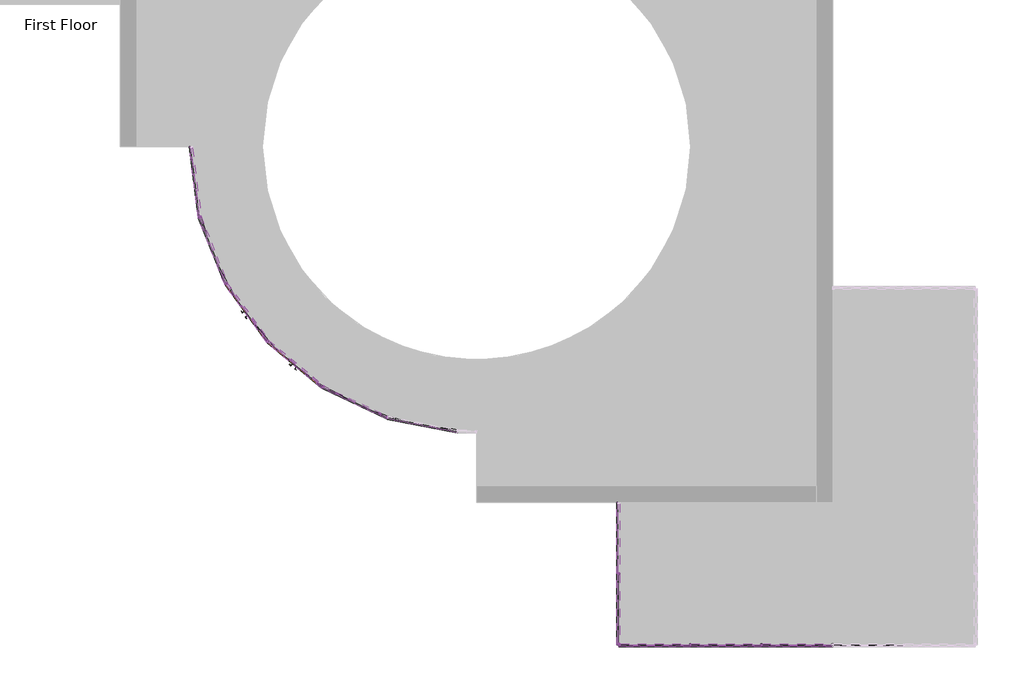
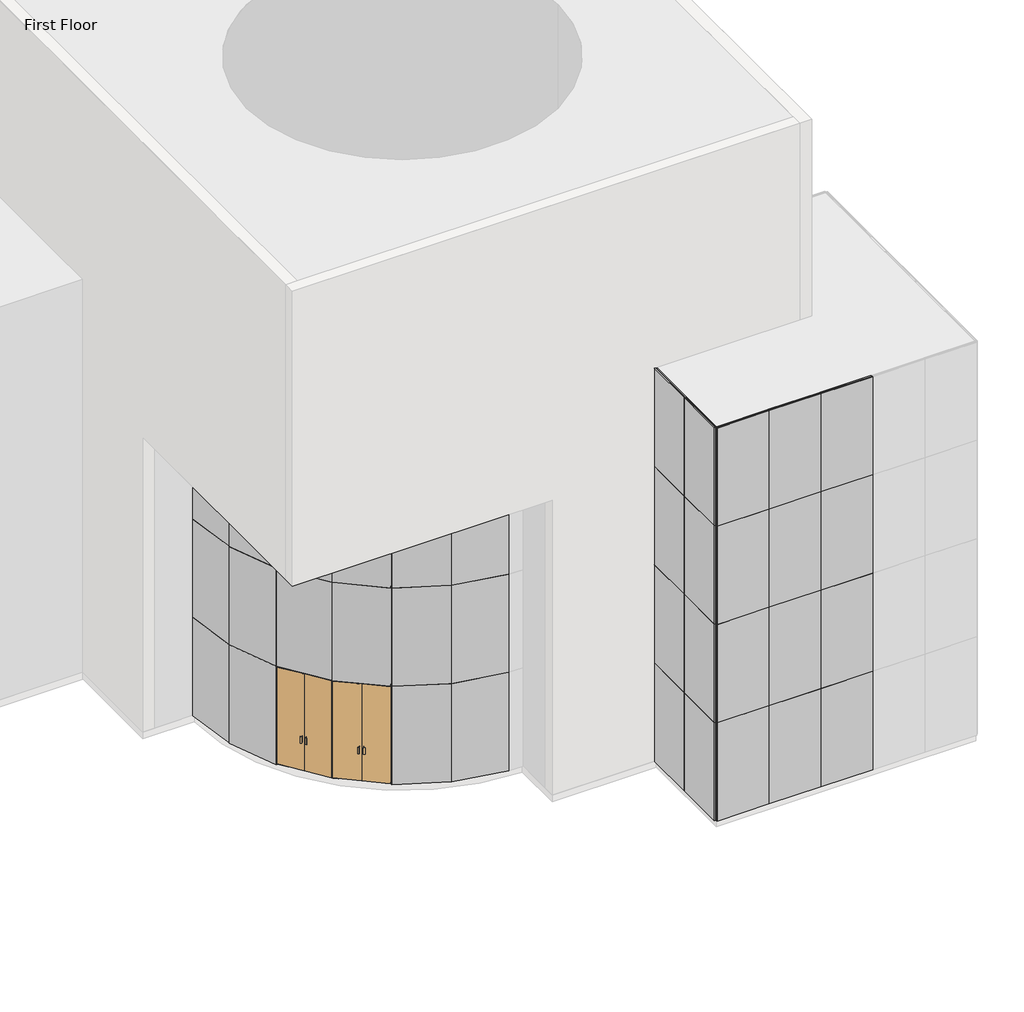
# One storey, part 1 of 4: 82 members, 36 plates, 2 doors.
"""IFC4 building model written with IfcOpenShell, lengths in millimetres."""

from ifc_helpers import new_model, si_unit, origin, place, context, project, spatial, transform, mapped, element, save
from components import m_curtain_wall_dbl_glass_m_curtain_wall_dbl_glass_bace0294, rectangular_mullion_30mm_square_353f8307, rectangular_mullion_30mm_square_7a78963c, rectangular_mullion_30mm_square_eb988697, rectangular_mullion_30mm_square_0160e4a9, rectangular_mullion_30mm_square_0f531e6e, rectangular_mullion_30mm_square_5a53314d, rectangular_mullion_30mm_square_fb89c945, rectangular_mullion_30mm_square_fb254f26, rectangular_mullion_30mm_square_80292d53, rectangular_mullion_30mm_square_ab68954c, system_panel_glazed_8bf869fa

model = new_model("IFC4")

# Units and contexts
model_context = context("Model", 3, world=origin())
ifc_project = project(units=[si_unit("LENGTHUNIT", "METRE", prefix="MILLI")], contexts=[model_context])

# Site, building, storey
site = spatial("IfcSite", under=ifc_project)
building = spatial("IfcBuilding", under=site)
storey = spatial("IfcBuildingStorey", under=building, Name="First Floor", Elevation=0.0)

# Doors
placement = place(None, origin())
m_curtain_wall_dbl_glass_m_curtain_wall_dbl_glass_shape = m_curtain_wall_dbl_glass_m_curtain_wall_dbl_glass_bace0294(model_context)
element("IfcDoor", 1, ObjectType="M_Curtain Wall Dbl Glass : M_Curtain Wall Dbl Glass", at=placement, inside=storey, context=model_context, shape_type="MappedRepresentation", body=[
    mapped(m_curtain_wall_dbl_glass_m_curtain_wall_dbl_glass_shape, transform((-4056.0147962, -3373.9604201, 30.0), x_axis=(0.5864257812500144, -0.8100029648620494, 0.0), y_axis=(0.8100029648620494, 0.5864257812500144, 0.0), z_axis=(0.0, 0.0, 1.0))),
])
element("IfcDoor", 2, ObjectType="M_Curtain Wall Dbl Glass : M_Curtain Wall Dbl Glass", at=placement, inside=storey, context=model_context, shape_type="MappedRepresentation", body=[
    mapped(m_curtain_wall_dbl_glass_m_curtain_wall_dbl_glass_shape, transform((-3023.1708631, -4478.2788343, 30.0), x_axis=(0.7690124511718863, -0.639233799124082, 0.0), y_axis=(0.639233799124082, 0.7690124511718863, 0.0), z_axis=(0.0, 0.0, 1.0))),
])

# Members
rectangular_mullion_30mm_square_shape = rectangular_mullion_30mm_square_353f8307(model_context)
element("IfcMember", 3, ObjectType="Rectangular Mullion : 30mm Square", at=placement, inside=storey, context=model_context, shape_type="MappedRepresentation", body=[
    mapped(rectangular_mullion_30mm_square_shape, transform((3891.0350085, -10465.147342, 12192.0), x_axis=(0.0, 0.0, 1.0), y_axis=(-1.0, 0.0, 0.0), z_axis=(0.0, -1.0, 0.0))),
])
element("IfcMember", 4, ObjectType="Rectangular Mullion : 30mm Square", at=placement, inside=storey, context=model_context, shape_type="MappedRepresentation", body=[
    mapped(rectangular_mullion_30mm_square_shape, transform((3891.0350085, -8956.147342, 12192.0), x_axis=(0.0, 0.0, 1.0), y_axis=(-1.0, 0.0, 0.0), z_axis=(0.0, -1.0, 0.0))),
])
element("IfcMember", 5, ObjectType="Rectangular Mullion : 30mm Square", at=placement, inside=storey, context=model_context, shape_type="MappedRepresentation", body=[
    mapped(rectangular_mullion_30mm_square_shape, transform((5400.0350085, -10495.147342, 12192.0), x_axis=(0.0, 0.0, 1.0), y_axis=(0.0, -1.0, 0.0), z_axis=(1.0, 0.0, 0.0))),
])
element("IfcMember", 6, ObjectType="Rectangular Mullion : 30mm Square", at=placement, inside=storey, context=model_context, shape_type="MappedRepresentation", body=[
    mapped(rectangular_mullion_30mm_square_shape, transform((3891.0350085, -8986.147342, 0.0), x_axis=(0.0, 0.0, -1.0), y_axis=(-1.0, 0.0, 0.0), z_axis=(0.0, 1.0, 0.0))),
])
element("IfcMember", 7, ObjectType="Rectangular Mullion : 30mm Square", at=placement, inside=storey, context=model_context, shape_type="MappedRepresentation", body=[
    mapped(rectangular_mullion_30mm_square_shape, transform((3921.0350085, -10495.147342, 0.0), x_axis=(0.0, 0.0, -1.0), y_axis=(0.0, -1.0, 0.0), z_axis=(-1.0, 0.0, 0.0))),
])
rectangular_mullion_30mm_square_2_shape = rectangular_mullion_30mm_square_7a78963c(model_context)
element("IfcMember", 8, ObjectType="Rectangular Mullion : 30mm Square", at=placement, inside=storey, context=model_context, shape_type="MappedRepresentation", body=[
    mapped(rectangular_mullion_30mm_square_2_shape, transform((-5062.4649915, -1339.1942163, 0.0), x_axis=(0.24803918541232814, -0.9687499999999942, 0.0), y_axis=(-0.9687499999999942, -0.24803918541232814, 0.0), z_axis=(0.0, 0.0, -1.0))),
])
element("IfcMember", 9, ObjectType="Rectangular Mullion : 30mm Square", at=placement, inside=storey, context=model_context, shape_type="MappedRepresentation", body=[
    mapped(rectangular_mullion_30mm_square_2_shape, transform((-4502.8712415, -2756.7381609, 0.0), x_axis=(0.4805759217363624, -0.8769531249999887, 0.0), y_axis=(-0.8769531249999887, -0.4805759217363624, 0.0), z_axis=(0.0, 0.0, -1.0))),
])
element("IfcMember", 10, ObjectType="Rectangular Mullion : 30mm Square", at=placement, inside=storey, context=model_context, shape_type="MappedRepresentation", body=[
    mapped(rectangular_mullion_30mm_square_2_shape, transform((-3609.1583509, -3991.1826794, 0.0), x_axis=(0.6830766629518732, -0.7303466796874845, 0.0), y_axis=(-0.7303466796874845, -0.6830766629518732, 0.0), z_axis=(0.0, 0.0, -1.0))),
])
element("IfcMember", 11, ObjectType="Rectangular Mullion : 30mm Square", at=placement, inside=storey, context=model_context, shape_type="MappedRepresentation", body=[
    mapped(rectangular_mullion_30mm_square_2_shape, transform((-2437.1833753, -4965.3749892, 0.0), x_axis=(0.8428851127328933, -0.5380935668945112, 0.0), y_axis=(-0.5380935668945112, -0.8428851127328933, 0.0), z_axis=(0.0, 0.0, -1.0))),
])
element("IfcMember", 12, ObjectType="Rectangular Mullion : 30mm Square", at=placement, inside=storey, context=model_context, shape_type="MappedRepresentation", body=[
    mapped(rectangular_mullion_30mm_square_2_shape, transform((-1060.1947507, -5618.4280711, 0.0), x_axis=(0.9500132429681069, -0.31220960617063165, 0.0), y_axis=(-0.31220960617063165, -0.9500132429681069, 0.0), z_axis=(0.0, 0.0, -1.0))),
])
element("IfcMember", 13, ObjectType="Rectangular Mullion : 30mm Square", at=placement, inside=storey, context=model_context, shape_type="MappedRepresentation", body=[
    mapped(rectangular_mullion_30mm_square_2_shape, transform((3891.0350085, -8971.147342, 0.0), x_axis=(0.0, -1.0, 0.0), y_axis=(-1.0, 0.0, 0.0), z_axis=(0.0, 0.0, -1.0))),
])
element("IfcMember", 14, ObjectType="Rectangular Mullion : 30mm Square", at=placement, inside=storey, context=model_context, shape_type="MappedRepresentation", body=[
    mapped(rectangular_mullion_30mm_square_2_shape, transform((5415.0350085, -10495.147342, 0.0), x_axis=(1.0, 0.0, 0.0), y_axis=(0.0, -1.0, 0.0), z_axis=(0.0, 0.0, -1.0))),
])
element("IfcMember", 15, ObjectType="Rectangular Mullion : 30mm Square", at=placement, inside=storey, context=model_context, shape_type="MappedRepresentation", body=[
    mapped(rectangular_mullion_30mm_square_2_shape, transform((6939.0350085, -10495.147342, 0.0), x_axis=(1.0, 0.0, 0.0), y_axis=(0.0, -1.0, 0.0), z_axis=(0.0, 0.0, -1.0))),
])
element("IfcMember", 16, ObjectType="Rectangular Mullion : 30mm Square", at=placement, inside=storey, context=model_context, shape_type="MappedRepresentation", body=[
    mapped(rectangular_mullion_30mm_square_2_shape, transform((8463.0350085, -10495.147342, 0.0), x_axis=(1.0, 0.0, 0.0), y_axis=(0.0, -1.0, 0.0), z_axis=(0.0, 0.0, -1.0))),
])
rectangular_mullion_30mm_square_3_shape = rectangular_mullion_30mm_square_eb988697(model_context)
element("IfcMember", 17, ObjectType="Rectangular Mullion : 30mm Square", at=placement, inside=storey, context=model_context, shape_type="MappedRepresentation", body=[
    mapped(rectangular_mullion_30mm_square_3_shape, transform((3891.0350085, -8956.147342, 3048.0), x_axis=(0.0, 0.0, 1.0), y_axis=(-1.0, 0.0, 0.0), z_axis=(0.0, -1.0, 0.0))),
])
element("IfcMember", 18, ObjectType="Rectangular Mullion : 30mm Square", at=placement, inside=storey, context=model_context, shape_type="MappedRepresentation", body=[
    mapped(rectangular_mullion_30mm_square_3_shape, transform((3891.0350085, -10465.147342, 3048.0), x_axis=(0.0, 0.0, 1.0), y_axis=(-1.0, 0.0, 0.0), z_axis=(0.0, -1.0, 0.0))),
])
element("IfcMember", 19, ObjectType="Rectangular Mullion : 30mm Square", at=placement, inside=storey, context=model_context, shape_type="MappedRepresentation", body=[
    mapped(rectangular_mullion_30mm_square_3_shape, transform((3891.0350085, -8956.147342, 6096.0), x_axis=(0.0, 0.0, 1.0), y_axis=(-1.0, 0.0, 0.0), z_axis=(0.0, -1.0, 0.0))),
])
element("IfcMember", 20, ObjectType="Rectangular Mullion : 30mm Square", at=placement, inside=storey, context=model_context, shape_type="MappedRepresentation", body=[
    mapped(rectangular_mullion_30mm_square_3_shape, transform((3891.0350085, -10465.147342, 6096.0), x_axis=(0.0, 0.0, 1.0), y_axis=(-1.0, 0.0, 0.0), z_axis=(0.0, -1.0, 0.0))),
])
element("IfcMember", 21, ObjectType="Rectangular Mullion : 30mm Square", at=placement, inside=storey, context=model_context, shape_type="MappedRepresentation", body=[
    mapped(rectangular_mullion_30mm_square_3_shape, transform((3891.0350085, -8956.147342, 9144.0), x_axis=(0.0, 0.0, 1.0), y_axis=(-1.0, 0.0, 0.0), z_axis=(0.0, -1.0, 0.0))),
])
element("IfcMember", 22, ObjectType="Rectangular Mullion : 30mm Square", at=placement, inside=storey, context=model_context, shape_type="MappedRepresentation", body=[
    mapped(rectangular_mullion_30mm_square_3_shape, transform((3891.0350085, -10465.147342, 9144.0), x_axis=(0.0, 0.0, 1.0), y_axis=(-1.0, 0.0, 0.0), z_axis=(0.0, -1.0, 0.0))),
])
element("IfcMember", 23, ObjectType="Rectangular Mullion : 30mm Square", at=placement, inside=storey, context=model_context, shape_type="MappedRepresentation", body=[
    mapped(rectangular_mullion_30mm_square_3_shape, transform((5400.0350085, -10495.147342, 3048.0), x_axis=(0.0, 0.0, 1.0), y_axis=(0.0, -1.0, 0.0), z_axis=(1.0, 0.0, 0.0))),
])
element("IfcMember", 24, ObjectType="Rectangular Mullion : 30mm Square", at=placement, inside=storey, context=model_context, shape_type="MappedRepresentation", body=[
    mapped(rectangular_mullion_30mm_square_3_shape, transform((5400.0350085, -10495.147342, 6096.0), x_axis=(0.0, 0.0, 1.0), y_axis=(0.0, -1.0, 0.0), z_axis=(1.0, 0.0, 0.0))),
])
element("IfcMember", 25, ObjectType="Rectangular Mullion : 30mm Square", at=placement, inside=storey, context=model_context, shape_type="MappedRepresentation", body=[
    mapped(rectangular_mullion_30mm_square_3_shape, transform((5400.0350085, -10495.147342, 9144.0), x_axis=(0.0, 0.0, 1.0), y_axis=(0.0, -1.0, 0.0), z_axis=(1.0, 0.0, 0.0))),
])
rectangular_mullion_30mm_square_4_shape = rectangular_mullion_30mm_square_0160e4a9(model_context)
element("IfcMember", 26, ObjectType="Rectangular Mullion : 30mm Square", at=placement, inside=storey, context=model_context, shape_type="MappedRepresentation", body=[
    mapped(rectangular_mullion_30mm_square_4_shape, transform((6924.0350085, -10495.147342, 3048.0), x_axis=(0.0, 0.0, 1.0), y_axis=(0.0, -1.0, 0.0), z_axis=(1.0, 0.0, 0.0))),
])
element("IfcMember", 27, ObjectType="Rectangular Mullion : 30mm Square", at=placement, inside=storey, context=model_context, shape_type="MappedRepresentation", body=[
    mapped(rectangular_mullion_30mm_square_4_shape, transform((8448.0350085, -10495.147342, 3048.0), x_axis=(0.0, 0.0, 1.0), y_axis=(0.0, -1.0, 0.0), z_axis=(1.0, 0.0, 0.0))),
])
element("IfcMember", 28, ObjectType="Rectangular Mullion : 30mm Square", at=placement, inside=storey, context=model_context, shape_type="MappedRepresentation", body=[
    mapped(rectangular_mullion_30mm_square_4_shape, transform((6924.0350085, -10495.147342, 6096.0), x_axis=(0.0, 0.0, 1.0), y_axis=(0.0, -1.0, 0.0), z_axis=(1.0, 0.0, 0.0))),
])
element("IfcMember", 29, ObjectType="Rectangular Mullion : 30mm Square", at=placement, inside=storey, context=model_context, shape_type="MappedRepresentation", body=[
    mapped(rectangular_mullion_30mm_square_4_shape, transform((8448.0350085, -10495.147342, 6096.0), x_axis=(0.0, 0.0, 1.0), y_axis=(0.0, -1.0, 0.0), z_axis=(1.0, 0.0, 0.0))),
])
element("IfcMember", 30, ObjectType="Rectangular Mullion : 30mm Square", at=placement, inside=storey, context=model_context, shape_type="MappedRepresentation", body=[
    mapped(rectangular_mullion_30mm_square_4_shape, transform((6924.0350085, -10495.147342, 9144.0), x_axis=(0.0, 0.0, 1.0), y_axis=(0.0, -1.0, 0.0), z_axis=(1.0, 0.0, 0.0))),
])
element("IfcMember", 31, ObjectType="Rectangular Mullion : 30mm Square", at=placement, inside=storey, context=model_context, shape_type="MappedRepresentation", body=[
    mapped(rectangular_mullion_30mm_square_4_shape, transform((8448.0350085, -10495.147342, 9144.0), x_axis=(0.0, 0.0, 1.0), y_axis=(0.0, -1.0, 0.0), z_axis=(1.0, 0.0, 0.0))),
])
rectangular_mullion_30mm_square_5_shape = rectangular_mullion_30mm_square_0f531e6e(model_context)
element("IfcMember", 32, ObjectType="Rectangular Mullion : 30mm Square", at=placement, inside=storey, context=model_context, shape_type="MappedRepresentation", body=[
    mapped(rectangular_mullion_30mm_square_5_shape, transform((5430.0350085, -10495.147342, 0.0), x_axis=(0.0, 0.0, -1.0), y_axis=(0.0, -1.0, 0.0), z_axis=(-1.0, 0.0, 0.0))),
])
element("IfcMember", 33, ObjectType="Rectangular Mullion : 30mm Square", at=placement, inside=storey, context=model_context, shape_type="MappedRepresentation", body=[
    mapped(rectangular_mullion_30mm_square_5_shape, transform((6954.0350085, -10495.147342, 0.0), x_axis=(0.0, 0.0, -1.0), y_axis=(0.0, -1.0, 0.0), z_axis=(-1.0, 0.0, 0.0))),
])
element("IfcMember", 34, ObjectType="Rectangular Mullion : 30mm Square", at=placement, inside=storey, context=model_context, shape_type="MappedRepresentation", body=[
    mapped(rectangular_mullion_30mm_square_5_shape, transform((8478.0350085, -10495.147342, 0.0), x_axis=(0.0, 0.0, -1.0), y_axis=(0.0, -1.0, 0.0), z_axis=(-1.0, 0.0, 0.0))),
])
element("IfcMember", 35, ObjectType="Rectangular Mullion : 30mm Square", at=placement, inside=storey, context=model_context, shape_type="MappedRepresentation", body=[
    mapped(rectangular_mullion_30mm_square_5_shape, transform((6924.0350085, -10495.147342, 12192.0), x_axis=(0.0, 0.0, 1.0), y_axis=(0.0, -1.0, 0.0), z_axis=(1.0, 0.0, 0.0))),
])
element("IfcMember", 36, ObjectType="Rectangular Mullion : 30mm Square", at=placement, inside=storey, context=model_context, shape_type="MappedRepresentation", body=[
    mapped(rectangular_mullion_30mm_square_5_shape, transform((8448.0350085, -10495.147342, 12192.0), x_axis=(0.0, 0.0, 1.0), y_axis=(0.0, -1.0, 0.0), z_axis=(1.0, 0.0, 0.0))),
])
element("IfcMember", 37, ObjectType="Rectangular Mullion : 30mm Square", at=placement, inside=storey, context=model_context, shape_type="MappedRepresentation", body=[
    mapped(rectangular_mullion_30mm_square_2_shape, transform((-5062.4649915, -1339.1942163, 3048.0), x_axis=(0.24803918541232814, -0.9687499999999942, 0.0), y_axis=(-0.9687499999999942, -0.24803918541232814, 0.0), z_axis=(0.0, 0.0, -1.0))),
])
element("IfcMember", 38, ObjectType="Rectangular Mullion : 30mm Square", at=placement, inside=storey, context=model_context, shape_type="MappedRepresentation", body=[
    mapped(rectangular_mullion_30mm_square_2_shape, transform((-4502.8712415, -2756.7381609, 3048.0), x_axis=(0.48057592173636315, -0.8769531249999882, 0.0), y_axis=(-0.8769531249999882, -0.48057592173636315, 0.0), z_axis=(0.0, 0.0, -1.0))),
])
element("IfcMember", 39, ObjectType="Rectangular Mullion : 30mm Square", at=placement, inside=storey, context=model_context, shape_type="MappedRepresentation", body=[
    mapped(rectangular_mullion_30mm_square_2_shape, transform((-3609.1583509, -3991.1826794, 3048.0), x_axis=(0.6830766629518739, -0.7303466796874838, 0.0), y_axis=(-0.7303466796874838, -0.6830766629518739, 0.0), z_axis=(0.0, 0.0, -1.0))),
])
element("IfcMember", 40, ObjectType="Rectangular Mullion : 30mm Square", at=placement, inside=storey, context=model_context, shape_type="MappedRepresentation", body=[
    mapped(rectangular_mullion_30mm_square_2_shape, transform((-2437.1833753, -4965.3749892, 3048.0), x_axis=(0.8428851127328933, -0.5380935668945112, 0.0), y_axis=(-0.5380935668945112, -0.8428851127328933, 0.0), z_axis=(0.0, 0.0, -1.0))),
])
element("IfcMember", 41, ObjectType="Rectangular Mullion : 30mm Square", at=placement, inside=storey, context=model_context, shape_type="MappedRepresentation", body=[
    mapped(rectangular_mullion_30mm_square_2_shape, transform((-1060.1947507, -5618.4280711, 3048.0), x_axis=(0.9500132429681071, -0.31220960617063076, 0.0), y_axis=(-0.31220960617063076, -0.9500132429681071, 0.0), z_axis=(0.0, 0.0, -1.0))),
])
element("IfcMember", 42, ObjectType="Rectangular Mullion : 30mm Square", at=placement, inside=storey, context=model_context, shape_type="MappedRepresentation", body=[
    mapped(rectangular_mullion_30mm_square_2_shape, transform((3891.0350085, -8971.147342, 3048.0), x_axis=(0.0, -1.0, 0.0), y_axis=(-1.0, 0.0, 0.0), z_axis=(0.0, 0.0, -1.0))),
])
element("IfcMember", 43, ObjectType="Rectangular Mullion : 30mm Square", at=placement, inside=storey, context=model_context, shape_type="MappedRepresentation", body=[
    mapped(rectangular_mullion_30mm_square_2_shape, transform((3891.0350085, -8971.147342, 6096.0), x_axis=(0.0, -1.0, 0.0), y_axis=(-1.0, 0.0, 0.0), z_axis=(0.0, 0.0, -1.0))),
])
element("IfcMember", 44, ObjectType="Rectangular Mullion : 30mm Square", at=placement, inside=storey, context=model_context, shape_type="MappedRepresentation", body=[
    mapped(rectangular_mullion_30mm_square_2_shape, transform((5415.0350085, -10495.147342, 3048.0), x_axis=(1.0, 0.0, 0.0), y_axis=(0.0, -1.0, 0.0), z_axis=(0.0, 0.0, -1.0))),
])
element("IfcMember", 45, ObjectType="Rectangular Mullion : 30mm Square", at=placement, inside=storey, context=model_context, shape_type="MappedRepresentation", body=[
    mapped(rectangular_mullion_30mm_square_2_shape, transform((5415.0350085, -10495.147342, 6096.0), x_axis=(1.0, 0.0, 0.0), y_axis=(0.0, -1.0, 0.0), z_axis=(0.0, 0.0, -1.0))),
])
element("IfcMember", 46, ObjectType="Rectangular Mullion : 30mm Square", at=placement, inside=storey, context=model_context, shape_type="MappedRepresentation", body=[
    mapped(rectangular_mullion_30mm_square_2_shape, transform((6939.0350085, -10495.147342, 3048.0), x_axis=(1.0, 0.0, 0.0), y_axis=(0.0, -1.0, 0.0), z_axis=(0.0, 0.0, -1.0))),
])
element("IfcMember", 47, ObjectType="Rectangular Mullion : 30mm Square", at=placement, inside=storey, context=model_context, shape_type="MappedRepresentation", body=[
    mapped(rectangular_mullion_30mm_square_2_shape, transform((6939.0350085, -10495.147342, 6096.0), x_axis=(1.0, 0.0, 0.0), y_axis=(0.0, -1.0, 0.0), z_axis=(0.0, 0.0, -1.0))),
])
element("IfcMember", 48, ObjectType="Rectangular Mullion : 30mm Square", at=placement, inside=storey, context=model_context, shape_type="MappedRepresentation", body=[
    mapped(rectangular_mullion_30mm_square_2_shape, transform((8463.0350085, -10495.147342, 3048.0), x_axis=(1.0, 0.0, 0.0), y_axis=(0.0, -1.0, 0.0), z_axis=(0.0, 0.0, -1.0))),
])
element("IfcMember", 49, ObjectType="Rectangular Mullion : 30mm Square", at=placement, inside=storey, context=model_context, shape_type="MappedRepresentation", body=[
    mapped(rectangular_mullion_30mm_square_2_shape, transform((-5062.4649915, -1339.1942163, 6096.0), x_axis=(0.24803918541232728, -0.9687499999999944, 0.0), y_axis=(-0.9687499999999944, -0.24803918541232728, 0.0), z_axis=(0.0, 0.0, -1.0))),
])
element("IfcMember", 50, ObjectType="Rectangular Mullion : 30mm Square", at=placement, inside=storey, context=model_context, shape_type="MappedRepresentation", body=[
    mapped(rectangular_mullion_30mm_square_2_shape, transform((-4502.8712415, -2756.7381609, 6096.0), x_axis=(0.4805759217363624, -0.8769531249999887, 0.0), y_axis=(-0.8769531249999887, -0.4805759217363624, 0.0), z_axis=(0.0, 0.0, -1.0))),
])
element("IfcMember", 51, ObjectType="Rectangular Mullion : 30mm Square", at=placement, inside=storey, context=model_context, shape_type="MappedRepresentation", body=[
    mapped(rectangular_mullion_30mm_square_2_shape, transform((-3609.1583509, -3991.1826794, 6096.0), x_axis=(0.6830766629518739, -0.7303466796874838, 0.0), y_axis=(-0.7303466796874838, -0.6830766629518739, 0.0), z_axis=(0.0, 0.0, -1.0))),
])
element("IfcMember", 52, ObjectType="Rectangular Mullion : 30mm Square", at=placement, inside=storey, context=model_context, shape_type="MappedRepresentation", body=[
    mapped(rectangular_mullion_30mm_square_2_shape, transform((-2437.1833753, -4965.3749892, 6096.0), x_axis=(0.8428851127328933, -0.5380935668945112, 0.0), y_axis=(-0.5380935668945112, -0.8428851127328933, 0.0), z_axis=(0.0, 0.0, -1.0))),
])
element("IfcMember", 53, ObjectType="Rectangular Mullion : 30mm Square", at=placement, inside=storey, context=model_context, shape_type="MappedRepresentation", body=[
    mapped(rectangular_mullion_30mm_square_2_shape, transform((-1060.1947507, -5618.4280711, 6096.0), x_axis=(0.9500132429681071, -0.31220960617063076, 0.0), y_axis=(-0.31220960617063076, -0.9500132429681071, 0.0), z_axis=(0.0, 0.0, -1.0))),
])
element("IfcMember", 54, ObjectType="Rectangular Mullion : 30mm Square", at=placement, inside=storey, context=model_context, shape_type="MappedRepresentation", body=[
    mapped(rectangular_mullion_30mm_square_2_shape, transform((3891.0350085, -8971.147342, 9144.0), x_axis=(0.0, -1.0, 0.0), y_axis=(-1.0, 0.0, 0.0), z_axis=(0.0, 0.0, -1.0))),
])
element("IfcMember", 55, ObjectType="Rectangular Mullion : 30mm Square", at=placement, inside=storey, context=model_context, shape_type="MappedRepresentation", body=[
    mapped(rectangular_mullion_30mm_square_2_shape, transform((5415.0350085, -10495.147342, 9144.0), x_axis=(1.0, 0.0, 0.0), y_axis=(0.0, -1.0, 0.0), z_axis=(0.0, 0.0, -1.0))),
])
element("IfcMember", 56, ObjectType="Rectangular Mullion : 30mm Square", at=placement, inside=storey, context=model_context, shape_type="MappedRepresentation", body=[
    mapped(rectangular_mullion_30mm_square_2_shape, transform((6939.0350085, -10495.147342, 9144.0), x_axis=(1.0, 0.0, 0.0), y_axis=(0.0, -1.0, 0.0), z_axis=(0.0, 0.0, -1.0))),
])
rectangular_mullion_30mm_square_6_shape = rectangular_mullion_30mm_square_5a53314d(model_context)
element("IfcMember", 57, ObjectType="Rectangular Mullion : 30mm Square", at=placement, inside=storey, context=model_context, shape_type="MappedRepresentation", body=[
    mapped(rectangular_mullion_30mm_square_6_shape, transform((3891.0350085, -10495.147342, 12192.0), x_axis=(-1.0, 0.0, 0.0), y_axis=(0.0, -1.0, 0.0), z_axis=(0.0, 0.0, 1.0))),
])
element("IfcMember", 58, ObjectType="Rectangular Mullion : 30mm Square", at=placement, inside=storey, context=model_context, shape_type="MappedRepresentation", body=[
    mapped(rectangular_mullion_30mm_square_6_shape, transform((3891.0350085, -10495.147342, 0.0), x_axis=(0.0, -1.0, 0.0), y_axis=(-1.0, 0.0, 0.0), z_axis=(0.0, 0.0, -1.0))),
])
element("IfcMember", 59, ObjectType="Rectangular Mullion : 30mm Square", at=placement, inside=storey, context=model_context, shape_type="MappedRepresentation", body=[
    mapped(rectangular_mullion_30mm_square_6_shape, transform((3891.0350085, -10495.147342, 3048.0), x_axis=(0.0, -1.0, 0.0), y_axis=(-1.0, 0.0, 0.0), z_axis=(0.0, 0.0, -1.0))),
])
element("IfcMember", 60, ObjectType="Rectangular Mullion : 30mm Square", at=placement, inside=storey, context=model_context, shape_type="MappedRepresentation", body=[
    mapped(rectangular_mullion_30mm_square_6_shape, transform((3891.0350085, -10495.147342, 6096.0), x_axis=(0.0, -1.0, 0.0), y_axis=(-1.0, 0.0, 0.0), z_axis=(0.0, 0.0, -1.0))),
])
element("IfcMember", 61, ObjectType="Rectangular Mullion : 30mm Square", at=placement, inside=storey, context=model_context, shape_type="MappedRepresentation", body=[
    mapped(rectangular_mullion_30mm_square_6_shape, transform((3891.0350085, -10495.147342, 9144.0), x_axis=(0.0, -1.0, 0.0), y_axis=(-1.0, 0.0, 0.0), z_axis=(0.0, 0.0, -1.0))),
])
element("IfcMember", 62, ObjectType="Rectangular Mullion : 30mm Square", at=placement, inside=storey, context=model_context, shape_type="MappedRepresentation", body=[
    mapped(rectangular_mullion_30mm_square_6_shape, transform((3891.0350085, -10495.147342, 3048.0), x_axis=(-1.0, 0.0, 0.0), y_axis=(0.0, -1.0, 0.0), z_axis=(0.0, 0.0, 1.0))),
])
element("IfcMember", 63, ObjectType="Rectangular Mullion : 30mm Square", at=placement, inside=storey, context=model_context, shape_type="MappedRepresentation", body=[
    mapped(rectangular_mullion_30mm_square_6_shape, transform((3891.0350085, -10495.147342, 6096.0), x_axis=(-1.0, 0.0, 0.0), y_axis=(0.0, -1.0, 0.0), z_axis=(0.0, 0.0, 1.0))),
])
element("IfcMember", 64, ObjectType="Rectangular Mullion : 30mm Square", at=placement, inside=storey, context=model_context, shape_type="MappedRepresentation", body=[
    mapped(rectangular_mullion_30mm_square_6_shape, transform((3891.0350085, -10495.147342, 9144.0), x_axis=(-1.0, 0.0, 0.0), y_axis=(0.0, -1.0, 0.0), z_axis=(0.0, 0.0, 1.0))),
])
rectangular_mullion_30mm_square_7_shape = rectangular_mullion_30mm_square_fb89c945(model_context)
element("IfcMember", 65, ObjectType="Rectangular Mullion : 30mm Square", at=placement, inside=storey, context=model_context, shape_type="MappedRepresentation", body=[
    mapped(rectangular_mullion_30mm_square_7_shape, transform((-5064.3399915, -1324.3118652, 3048.0), x_axis=(0.0, 0.0, 1.0), y_axis=(-0.9921567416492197, -0.12500000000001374, 0.0), z_axis=(0.12500000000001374, -0.9921567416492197, 0.0))),
])
element("IfcMember", 66, ObjectType="Rectangular Mullion : 30mm Square", at=placement, inside=storey, context=model_context, shape_type="MappedRepresentation", body=[
    mapped(rectangular_mullion_30mm_square_7_shape, transform((-5064.3399915, -1324.3118652, 6096.0), x_axis=(0.0, 0.0, 1.0), y_axis=(-0.9921567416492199, -0.1250000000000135, 0.0), z_axis=(0.12500000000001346, -0.9921567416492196, 0.0))),
])
rectangular_mullion_30mm_square_8_shape = rectangular_mullion_30mm_square_fb254f26(model_context)
element("IfcMember", 67, ObjectType="Rectangular Mullion : 30mm Square", at=placement, inside=storey, context=model_context, shape_type="MappedRepresentation", body=[
    mapped(rectangular_mullion_30mm_square_8_shape, transform((-4508.379054, -2742.7859567, 3048.0), x_axis=(0.0, 0.0, 1.0), y_axis=(-0.9301469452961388, -0.3671875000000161, 0.0), z_axis=(0.3671875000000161, -0.9301469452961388, 0.0))),
])
element("IfcMember", 68, ObjectType="Rectangular Mullion : 30mm Square", at=placement, inside=storey, context=model_context, shape_type="MappedRepresentation", body=[
    mapped(rectangular_mullion_30mm_square_8_shape, transform((-3617.9547376, -3979.0326349, 3048.0), x_axis=(0.0, 0.0, 1.0), y_axis=(-0.8100029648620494, -0.5864257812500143, 0.0), z_axis=(0.5864257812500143, -0.8100029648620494, 0.0))),
])
element("IfcMember", 69, ObjectType="Rectangular Mullion : 30mm Square", at=placement, inside=storey, context=model_context, shape_type="MappedRepresentation", body=[
    mapped(rectangular_mullion_30mm_square_8_shape, transform((-2448.7185621, -4955.7864822, 3048.0), x_axis=(0.0, 0.0, 1.0), y_axis=(-0.6392337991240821, -0.7690124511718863, 0.0), z_axis=(0.7690124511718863, -0.6392337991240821, 0.0))),
])
element("IfcMember", 70, ObjectType="Rectangular Mullion : 30mm Square", at=placement, inside=storey, context=model_context, shape_type="MappedRepresentation", body=[
    mapped(rectangular_mullion_30mm_square_8_shape, transform((-1073.7477884, -5612.0003833, 3048.0), x_axis=(0.0, 0.0, 1.0), y_axis=(-0.42851252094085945, -0.9035358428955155, 0.0), z_axis=(0.9035358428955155, -0.42851252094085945, 0.0))),
])
element("IfcMember", 71, ObjectType="Rectangular Mullion : 30mm Square", at=placement, inside=storey, context=model_context, shape_type="MappedRepresentation", body=[
    mapped(rectangular_mullion_30mm_square_8_shape, transform((-4508.379054, -2742.7859567, 6096.0), x_axis=(0.0, 0.0, 1.0), y_axis=(-0.9301469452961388, -0.3671875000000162, 0.0), z_axis=(0.3671875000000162, -0.9301469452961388, 0.0))),
])
element("IfcMember", 72, ObjectType="Rectangular Mullion : 30mm Square", at=placement, inside=storey, context=model_context, shape_type="MappedRepresentation", body=[
    mapped(rectangular_mullion_30mm_square_8_shape, transform((-3617.9547376, -3979.0326349, 6096.0), x_axis=(0.0, 0.0, 1.0), y_axis=(-0.8100029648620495, -0.5864257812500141, 0.0), z_axis=(0.5864257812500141, -0.8100029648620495, 0.0))),
])
element("IfcMember", 73, ObjectType="Rectangular Mullion : 30mm Square", at=placement, inside=storey, context=model_context, shape_type="MappedRepresentation", body=[
    mapped(rectangular_mullion_30mm_square_8_shape, transform((-2448.7185621, -4955.7864822, 6096.0), x_axis=(0.0, 0.0, 1.0), y_axis=(-0.6392337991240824, -0.7690124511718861, 0.0), z_axis=(0.769012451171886, -0.6392337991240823, 0.0))),
])
element("IfcMember", 74, ObjectType="Rectangular Mullion : 30mm Square", at=placement, inside=storey, context=model_context, shape_type="MappedRepresentation", body=[
    mapped(rectangular_mullion_30mm_square_8_shape, transform((-1073.7477884, -5612.0003833, 6096.0), x_axis=(0.0, 0.0, 1.0), y_axis=(-0.42851252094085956, -0.9035358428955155, 0.0), z_axis=(0.9035358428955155, -0.42851252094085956, 0.0))),
])
rectangular_mullion_30mm_square_9_shape = rectangular_mullion_30mm_square_80292d53(model_context)
element("IfcMember", 75, ObjectType="Rectangular Mullion : 30mm Square", at=placement, inside=storey, context=model_context, shape_type="MappedRepresentation", body=[
    mapped(rectangular_mullion_30mm_square_9_shape, transform((-5056.957179, -1353.1464205, 0.0), x_axis=(0.0, 0.0, -1.0), y_axis=(-0.9301469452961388, -0.3671875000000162, 0.0), z_axis=(-0.3671875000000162, 0.9301469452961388, 0.0))),
])
element("IfcMember", 76, ObjectType="Rectangular Mullion : 30mm Square", at=placement, inside=storey, context=model_context, shape_type="MappedRepresentation", body=[
    mapped(rectangular_mullion_30mm_square_9_shape, transform((-4494.0748548, -2768.8882054, 0.0), x_axis=(0.0, 0.0, -1.0), y_axis=(-0.8100029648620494, -0.5864257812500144, 0.0), z_axis=(-0.5864257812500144, 0.8100029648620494, 0.0))),
])
element("IfcMember", 77, ObjectType="Rectangular Mullion : 30mm Square", at=placement, inside=storey, context=model_context, shape_type="MappedRepresentation", body=[
    mapped(rectangular_mullion_30mm_square_9_shape, transform((-3597.6231641, -4000.7711864, 0.0), x_axis=(0.0, 0.0, -1.0), y_axis=(-0.639233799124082, -0.7690124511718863, 0.0), z_axis=(-0.7690124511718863, 0.639233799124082, 0.0))),
])
element("IfcMember", 78, ObjectType="Rectangular Mullion : 30mm Square", at=placement, inside=storey, context=model_context, shape_type="MappedRepresentation", body=[
    mapped(rectangular_mullion_30mm_square_9_shape, transform((-2423.6303376, -4971.802677, 0.0), x_axis=(0.0, 0.0, -1.0), y_axis=(-0.42851252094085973, -0.9035358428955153, 0.0), z_axis=(-0.9035358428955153, 0.42851252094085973, 0.0))),
])
element("IfcMember", 79, ObjectType="Rectangular Mullion : 30mm Square", at=placement, inside=storey, context=model_context, shape_type="MappedRepresentation", body=[
    mapped(rectangular_mullion_30mm_square_9_shape, transform((-1045.470927, -5621.2932093, 0.0), x_axis=(0.0, 0.0, -1.0), y_axis=(-0.19100921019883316, -0.9815882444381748, 0.0), z_axis=(-0.9815882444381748, 0.19100921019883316, 0.0))),
])
rectangular_mullion_30mm_square_10_shape = rectangular_mullion_30mm_square_ab68954c(model_context)
element("IfcMember", 80, ObjectType="Rectangular Mullion : 30mm Square", at=placement, inside=storey, context=model_context, shape_type="MappedRepresentation", body=[
    mapped(rectangular_mullion_30mm_square_10_shape, transform((-5064.3399915, -1324.3118652, 9144.0), x_axis=(0.0, 0.0, 1.0), y_axis=(-0.9921567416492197, -0.12500000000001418, 0.0), z_axis=(0.12500000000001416, -0.9921567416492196, 0.0))),
])
element("IfcMember", 81, ObjectType="Rectangular Mullion : 30mm Square", at=placement, inside=storey, context=model_context, shape_type="MappedRepresentation", body=[
    mapped(rectangular_mullion_30mm_square_9_shape, transform((-4508.379054, -2742.7859567, 9144.0), x_axis=(0.0, 0.0, 1.0), y_axis=(-0.9301469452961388, -0.3671875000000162, 0.0), z_axis=(0.3671875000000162, -0.9301469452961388, 0.0))),
])
element("IfcMember", 82, ObjectType="Rectangular Mullion : 30mm Square", at=placement, inside=storey, context=model_context, shape_type="MappedRepresentation", body=[
    mapped(rectangular_mullion_30mm_square_9_shape, transform((-3617.9547376, -3979.0326349, 9144.0), x_axis=(0.0, 0.0, 1.0), y_axis=(-0.8100029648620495, -0.5864257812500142, 0.0), z_axis=(0.5864257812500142, -0.8100029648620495, 0.0))),
])
element("IfcMember", 83, ObjectType="Rectangular Mullion : 30mm Square", at=placement, inside=storey, context=model_context, shape_type="MappedRepresentation", body=[
    mapped(rectangular_mullion_30mm_square_9_shape, transform((-2448.7185621, -4955.7864822, 9144.0), x_axis=(0.0, 0.0, 1.0), y_axis=(-0.6392337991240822, -0.7690124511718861, 0.0), z_axis=(0.7690124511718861, -0.6392337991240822, 0.0))),
])
element("IfcMember", 84, ObjectType="Rectangular Mullion : 30mm Square", at=placement, inside=storey, context=model_context, shape_type="MappedRepresentation", body=[
    mapped(rectangular_mullion_30mm_square_9_shape, transform((-1073.7477884, -5612.0003833, 9144.0), x_axis=(0.0, 0.0, 1.0), y_axis=(-0.42851252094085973, -0.9035358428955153, 0.0), z_axis=(0.9035358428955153, -0.42851252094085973, 0.0))),
])

# Plates
system_panel_glazed_shape = system_panel_glazed_8bf869fa(model_context)
element("IfcPlate", 85, ObjectType="System Panel : Glazed", at=placement, inside=storey, context=model_context, shape_type="MappedRepresentation", body=[
    mapped(system_panel_glazed_shape, transform((3891.0350085, -8209.147342, 0.0), x_axis=(0.0, -1.0, 0.0), y_axis=(1.0, 0.0, 0.0), z_axis=(0.0, 0.0, 1.0))),
])
element("IfcPlate", 86, ObjectType="System Panel : Glazed", at=placement, inside=storey, context=model_context, shape_type="MappedRepresentation", body=[
    mapped(system_panel_glazed_shape, transform((3891.0350085, -9733.147342, 0.0), x_axis=(0.0, -1.0, 0.0), y_axis=(1.0, 0.0, 0.0), z_axis=(0.0, 0.0, 1.0))),
])
element("IfcPlate", 87, ObjectType="System Panel : Glazed", at=placement, inside=storey, context=model_context, shape_type="MappedRepresentation", body=[
    mapped(system_panel_glazed_shape, transform((3891.0350085, -8209.147342, 3048.0), x_axis=(0.0, -1.0, 0.0), y_axis=(1.0, 0.0, 0.0), z_axis=(0.0, 0.0, 1.0))),
])
element("IfcPlate", 88, ObjectType="System Panel : Glazed", at=placement, inside=storey, context=model_context, shape_type="MappedRepresentation", body=[
    mapped(system_panel_glazed_shape, transform((3891.0350085, -9733.147342, 3048.0), x_axis=(0.0, -1.0, 0.0), y_axis=(1.0, 0.0, 0.0), z_axis=(0.0, 0.0, 1.0))),
])
element("IfcPlate", 89, ObjectType="System Panel : Glazed", at=placement, inside=storey, context=model_context, shape_type="MappedRepresentation", body=[
    mapped(system_panel_glazed_shape, transform((3891.0350085, -8209.147342, 6096.0), x_axis=(0.0, -1.0, 0.0), y_axis=(1.0, 0.0, 0.0), z_axis=(0.0, 0.0, 1.0))),
])
element("IfcPlate", 90, ObjectType="System Panel : Glazed", at=placement, inside=storey, context=model_context, shape_type="MappedRepresentation", body=[
    mapped(system_panel_glazed_shape, transform((3891.0350085, -9733.147342, 6096.0), x_axis=(0.0, -1.0, 0.0), y_axis=(1.0, 0.0, 0.0), z_axis=(0.0, 0.0, 1.0))),
])
element("IfcPlate", 91, ObjectType="System Panel : Glazed", at=placement, inside=storey, context=model_context, shape_type="MappedRepresentation", body=[
    mapped(system_panel_glazed_shape, transform((3891.0350085, -8209.147342, 9144.0), x_axis=(0.0, -1.0, 0.0), y_axis=(1.0, 0.0, 0.0), z_axis=(0.0, 0.0, 1.0))),
])
element("IfcPlate", 92, ObjectType="System Panel : Glazed", at=placement, inside=storey, context=model_context, shape_type="MappedRepresentation", body=[
    mapped(system_panel_glazed_shape, transform((3891.0350085, -9733.147342, 9144.0), x_axis=(0.0, -1.0, 0.0), y_axis=(1.0, 0.0, 0.0), z_axis=(0.0, 0.0, 1.0))),
])
element("IfcPlate", 93, ObjectType="System Panel : Glazed", at=placement, inside=storey, context=model_context, shape_type="MappedRepresentation", body=[
    mapped(system_panel_glazed_shape, transform((4653.0350085, -10495.147342, 0.0), x_axis=(1.0, 0.0, 0.0), y_axis=(0.0, 1.0, 0.0), z_axis=(0.0, 0.0, 1.0))),
])
element("IfcPlate", 94, ObjectType="System Panel : Glazed", at=placement, inside=storey, context=model_context, shape_type="MappedRepresentation", body=[
    mapped(system_panel_glazed_shape, transform((6177.0350085, -10495.147342, 0.0), x_axis=(1.0, 0.0, 0.0), y_axis=(0.0, 1.0, 0.0), z_axis=(0.0, 0.0, 1.0))),
])
element("IfcPlate", 95, ObjectType="System Panel : Glazed", at=placement, inside=storey, context=model_context, shape_type="MappedRepresentation", body=[
    mapped(system_panel_glazed_shape, transform((7701.0350085, -10495.147342, 0.0), x_axis=(1.0, 0.0, 0.0), y_axis=(0.0, 1.0, 0.0), z_axis=(0.0, 0.0, 1.0))),
])
element("IfcPlate", 96, ObjectType="System Panel : Glazed", at=placement, inside=storey, context=model_context, shape_type="MappedRepresentation", body=[
    mapped(system_panel_glazed_shape, transform((4653.0350085, -10495.147342, 3048.0), x_axis=(1.0, 0.0, 0.0), y_axis=(0.0, 1.0, 0.0), z_axis=(0.0, 0.0, 1.0))),
])
element("IfcPlate", 97, ObjectType="System Panel : Glazed", at=placement, inside=storey, context=model_context, shape_type="MappedRepresentation", body=[
    mapped(system_panel_glazed_shape, transform((6177.0350085, -10495.147342, 3048.0), x_axis=(1.0, 0.0, 0.0), y_axis=(0.0, 1.0, 0.0), z_axis=(0.0, 0.0, 1.0))),
])
element("IfcPlate", 98, ObjectType="System Panel : Glazed", at=placement, inside=storey, context=model_context, shape_type="MappedRepresentation", body=[
    mapped(system_panel_glazed_shape, transform((7701.0350085, -10495.147342, 3048.0), x_axis=(1.0, 0.0, 0.0), y_axis=(0.0, 1.0, 0.0), z_axis=(0.0, 0.0, 1.0))),
])
element("IfcPlate", 99, ObjectType="System Panel : Glazed", at=placement, inside=storey, context=model_context, shape_type="MappedRepresentation", body=[
    mapped(system_panel_glazed_shape, transform((4653.0350085, -10495.147342, 6096.0), x_axis=(1.0, 0.0, 0.0), y_axis=(0.0, 1.0, 0.0), z_axis=(0.0, 0.0, 1.0))),
])
element("IfcPlate", 100, ObjectType="System Panel : Glazed", at=placement, inside=storey, context=model_context, shape_type="MappedRepresentation", body=[
    mapped(system_panel_glazed_shape, transform((6177.0350085, -10495.147342, 6096.0), x_axis=(1.0, 0.0, 0.0), y_axis=(0.0, 1.0, 0.0), z_axis=(0.0, 0.0, 1.0))),
])
element("IfcPlate", 101, ObjectType="System Panel : Glazed", at=placement, inside=storey, context=model_context, shape_type="MappedRepresentation", body=[
    mapped(system_panel_glazed_shape, transform((7701.0350085, -10495.147342, 6096.0), x_axis=(1.0, 0.0, 0.0), y_axis=(0.0, 1.0, 0.0), z_axis=(0.0, 0.0, 1.0))),
])
element("IfcPlate", 102, ObjectType="System Panel : Glazed", at=placement, inside=storey, context=model_context, shape_type="MappedRepresentation", body=[
    mapped(system_panel_glazed_shape, transform((4653.0350085, -10495.147342, 9144.0), x_axis=(1.0, 0.0, 0.0), y_axis=(0.0, 1.0, 0.0), z_axis=(0.0, 0.0, 1.0))),
])
element("IfcPlate", 103, ObjectType="System Panel : Glazed", at=placement, inside=storey, context=model_context, shape_type="MappedRepresentation", body=[
    mapped(system_panel_glazed_shape, transform((6177.0350085, -10495.147342, 9144.0), x_axis=(1.0, 0.0, 0.0), y_axis=(0.0, 1.0, 0.0), z_axis=(0.0, 0.0, 1.0))),
])
element("IfcPlate", 104, ObjectType="System Panel : Glazed", at=placement, inside=storey, context=model_context, shape_type="MappedRepresentation", body=[
    mapped(system_panel_glazed_shape, transform((7701.0350085, -10495.147342, 9144.0), x_axis=(1.0, 0.0, 0.0), y_axis=(0.0, 1.0, 0.0), z_axis=(0.0, 0.0, 1.0))),
])
element("IfcPlate", 105, ObjectType="System Panel : Glazed", at=placement, inside=storey, context=model_context, shape_type="MappedRepresentation", body=[
    mapped(system_panel_glazed_shape, transform((-5157.7149915, -583.1707792, 0.0), x_axis=(0.12500000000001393, -0.9921567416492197, 0.0), y_axis=(0.9921567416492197, 0.12500000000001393, 0.0), z_axis=(0.0, 0.0, 1.0))),
])
element("IfcPlate", 106, ObjectType="System Panel : Glazed", at=placement, inside=storey, context=model_context, shape_type="MappedRepresentation", body=[
    mapped(system_panel_glazed_shape, transform((-4782.6681165, -2047.9661886, 0.0), x_axis=(0.3671875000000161, -0.9301469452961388, 0.0), y_axis=(0.9301469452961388, 0.3671875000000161, 0.0), z_axis=(0.0, 0.0, 1.0))),
])
element("IfcPlate", 107, ObjectType="System Panel : Glazed", at=placement, inside=storey, context=model_context, shape_type="MappedRepresentation", body=[
    mapped(system_panel_glazed_shape, transform((-1748.689063, -5291.9015302, 0.0), x_axis=(0.9035358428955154, -0.42851252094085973, 0.0), y_axis=(0.42851252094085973, 0.9035358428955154, 0.0), z_axis=(0.0, 0.0, 1.0))),
])
element("IfcPlate", 108, ObjectType="System Panel : Glazed", at=placement, inside=storey, context=model_context, shape_type="MappedRepresentation", body=[
    mapped(system_panel_glazed_shape, transform((-312.2245084, -5763.9770893, 0.0), x_axis=(0.9815882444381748, -0.1910092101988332, 0.0), y_axis=(0.1910092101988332, 0.9815882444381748, 0.0), z_axis=(0.0, 0.0, 1.0))),
])
element("IfcPlate", 109, ObjectType="System Panel : Glazed", at=placement, inside=storey, context=model_context, shape_type="MappedRepresentation", body=[
    mapped(system_panel_glazed_shape, transform((-5157.7149915, -583.1707792, 3048.0), x_axis=(0.1250000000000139, -0.9921567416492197, 0.0), y_axis=(0.9921567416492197, 0.1250000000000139, 0.0), z_axis=(0.0, 0.0, 1.0))),
])
element("IfcPlate", 110, ObjectType="System Panel : Glazed", at=placement, inside=storey, context=model_context, shape_type="MappedRepresentation", body=[
    mapped(system_panel_glazed_shape, transform((-4782.6681165, -2047.9661886, 3048.0), x_axis=(0.3671875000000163, -0.9301469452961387, 0.0), y_axis=(0.9301469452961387, 0.3671875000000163, 0.0), z_axis=(0.0, 0.0, 1.0))),
])
element("IfcPlate", 111, ObjectType="System Panel : Glazed", at=placement, inside=storey, context=model_context, shape_type="MappedRepresentation", body=[
    mapped(system_panel_glazed_shape, transform((-4056.0147962, -3373.9604201, 3048.0), x_axis=(0.5864257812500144, -0.8100029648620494, 0.0), y_axis=(0.8100029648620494, 0.5864257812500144, 0.0), z_axis=(0.0, 0.0, 1.0))),
])
element("IfcPlate", 112, ObjectType="System Panel : Glazed", at=placement, inside=storey, context=model_context, shape_type="MappedRepresentation", body=[
    mapped(system_panel_glazed_shape, transform((-3023.1708631, -4478.2788343, 3048.0), x_axis=(0.7690124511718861, -0.6392337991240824, 0.0), y_axis=(0.6392337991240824, 0.7690124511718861, 0.0), z_axis=(0.0, 0.0, 1.0))),
])
element("IfcPlate", 113, ObjectType="System Panel : Glazed", at=placement, inside=storey, context=model_context, shape_type="MappedRepresentation", body=[
    mapped(system_panel_glazed_shape, transform((-1748.689063, -5291.9015302, 3048.0), x_axis=(0.9035358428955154, -0.42851252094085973, 0.0), y_axis=(0.42851252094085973, 0.9035358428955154, 0.0), z_axis=(0.0, 0.0, 1.0))),
])
element("IfcPlate", 114, ObjectType="System Panel : Glazed", at=placement, inside=storey, context=model_context, shape_type="MappedRepresentation", body=[
    mapped(system_panel_glazed_shape, transform((-312.2245084, -5763.9770893, 3048.0), x_axis=(0.9815882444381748, -0.19100921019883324, 0.0), y_axis=(0.19100921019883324, 0.9815882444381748, 0.0), z_axis=(0.0, 0.0, 1.0))),
])
element("IfcPlate", 115, ObjectType="System Panel : Glazed", at=placement, inside=storey, context=model_context, shape_type="MappedRepresentation", body=[
    mapped(system_panel_glazed_shape, transform((-5157.7149915, -583.1707792, 6096.0), x_axis=(0.12500000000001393, -0.9921567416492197, 0.0), y_axis=(0.9921567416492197, 0.12500000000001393, 0.0), z_axis=(0.0, 0.0, 1.0))),
])
element("IfcPlate", 116, ObjectType="System Panel : Glazed", at=placement, inside=storey, context=model_context, shape_type="MappedRepresentation", body=[
    mapped(system_panel_glazed_shape, transform((-4782.6681165, -2047.9661886, 6096.0), x_axis=(0.36718750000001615, -0.9301469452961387, 0.0), y_axis=(0.9301469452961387, 0.36718750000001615, 0.0), z_axis=(0.0, 0.0, 1.0))),
])
element("IfcPlate", 117, ObjectType="System Panel : Glazed", at=placement, inside=storey, context=model_context, shape_type="MappedRepresentation", body=[
    mapped(system_panel_glazed_shape, transform((-4056.0147962, -3373.9604201, 6096.0), x_axis=(0.5864257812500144, -0.8100029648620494, 0.0), y_axis=(0.8100029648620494, 0.5864257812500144, 0.0), z_axis=(0.0, 0.0, 1.0))),
])
element("IfcPlate", 118, ObjectType="System Panel : Glazed", at=placement, inside=storey, context=model_context, shape_type="MappedRepresentation", body=[
    mapped(system_panel_glazed_shape, transform((-3023.1708631, -4478.2788343, 6096.0), x_axis=(0.7690124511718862, -0.6392337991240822, 0.0), y_axis=(0.6392337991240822, 0.7690124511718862, 0.0), z_axis=(0.0, 0.0, 1.0))),
])
element("IfcPlate", 119, ObjectType="System Panel : Glazed", at=placement, inside=storey, context=model_context, shape_type="MappedRepresentation", body=[
    mapped(system_panel_glazed_shape, transform((-1748.689063, -5291.9015302, 6096.0), x_axis=(0.9035358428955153, -0.42851252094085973, 0.0), y_axis=(0.42851252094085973, 0.9035358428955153, 0.0), z_axis=(0.0, 0.0, 1.0))),
])
element("IfcPlate", 120, ObjectType="System Panel : Glazed", at=placement, inside=storey, context=model_context, shape_type="MappedRepresentation", body=[
    mapped(system_panel_glazed_shape, transform((-312.2245084, -5763.9770893, 6096.0), x_axis=(0.9815882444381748, -0.19100921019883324, 0.0), y_axis=(0.19100921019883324, 0.9815882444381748, 0.0), z_axis=(0.0, 0.0, 1.0))),
])

save(model, "model.ifc")
